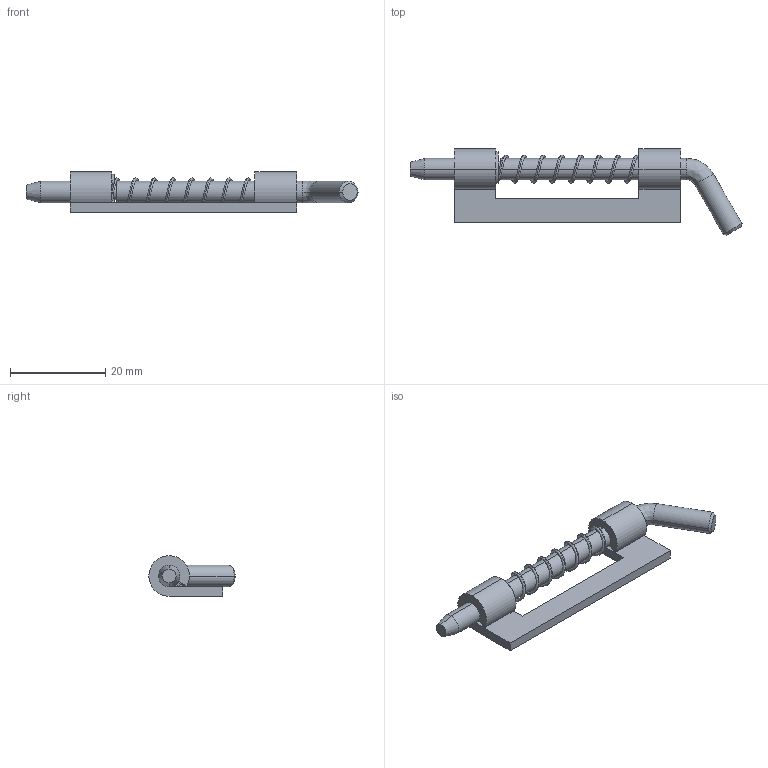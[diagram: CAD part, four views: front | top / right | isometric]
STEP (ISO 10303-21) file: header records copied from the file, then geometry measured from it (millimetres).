
FILE_DESCRIPTION (( 'STEP AP214' ), '1' );
FILE_NAME ('3.ST20.001.STEP', '2016-09-02T11:30:29', ( '' ), ( '' ), 'SwSTEP 2.0', 'SolidWorks 2015', '' );
FILE_SCHEMA (( 'AUTOMOTIVE_DESIGN' ));
Length unit declared in the file: millimetre
Products named in the file (5): 3.ST20.001.01_A; 3.ST20.001; 3B.St20.04.00.00_A; DIN 6799_ST - 3,2; 3B.St20.02.00.00_A
Assembly tree (4 placements, depth 2):
  3.ST20.001
    3.ST20.001.01_A
    3B.St20.02.00.00_A
    DIN 6799_ST - 3,2
    3B.St20.04.00.00_A
Bounding box: 69.61 x 18.1 x 8.5 mm (x, y, z)
Volume: 2528 mm3; surface area: 3240.8 mm2
Topology: 4 solids, 4 shells, 75 faces, 185 edges, 120 vertices
Faces by surface type: cylinder 35, plane 24, bspline 12, cone 4
Entity records: 5527 total; most frequent: CARTESIAN_POINT 3573, DIRECTION 393, ORIENTED_EDGE 370, EDGE_CURVE 185, AXIS2_PLACEMENT_3D 156, VERTEX_POINT 120, CIRCLE 86, VECTOR 81
